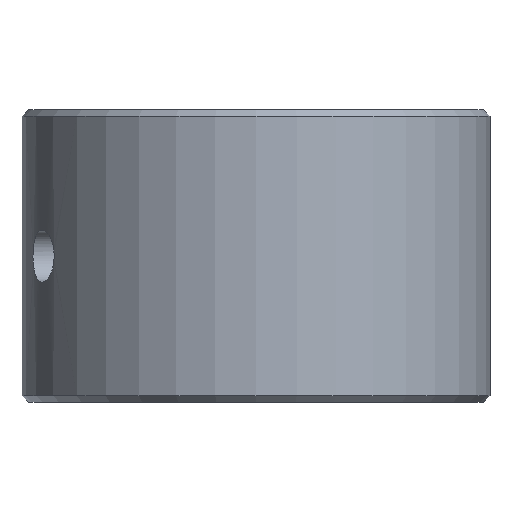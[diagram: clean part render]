
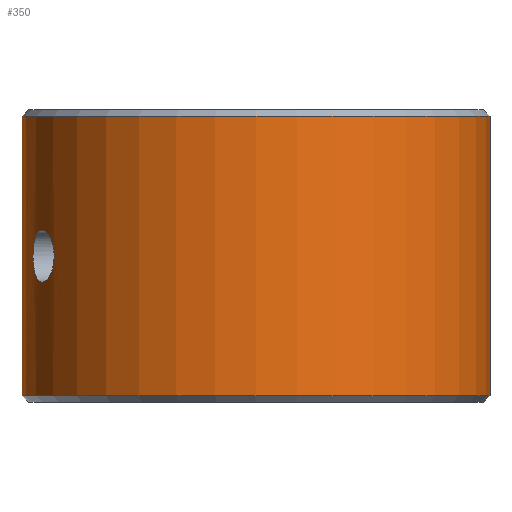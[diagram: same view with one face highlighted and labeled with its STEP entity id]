
A CAD part, front view. The second image highlights one B-rep face of the part: STEP entity #350.
In plain terms, the highlighted cylindrical face has radius 36 mm (diameter 72 mm), a full revolution.
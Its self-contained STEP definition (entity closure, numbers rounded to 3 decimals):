
#80=FACE_BOUND('',#150,.T.);
#81=FACE_BOUND('',#151,.T.);
#97=CIRCLE('',#395,36.);
#98=CIRCLE('',#396,36.);
#99=CIRCLE('',#398,36.);
#100=CIRCLE('',#399,36.);
#128=FACE_OUTER_BOUND('',#149,.T.);
#149=EDGE_LOOP('',(#295,#296,#297,#298,#299,#300));
#150=EDGE_LOOP('',(#301,#302));
#151=EDGE_LOOP('',(#303,#304));
#169=LINE('',#722,#181);
#181=VECTOR('',#469,36.);
#188=B_SPLINE_CURVE_WITH_KNOTS('',3,(#540,#541,#542,#543,#544,#545,#546,
#547,#548,#549,#550,#551,#552,#553,#554,#555,#556,#557,#558,#559,#560,#561,
#562,#563,#564,#565),.UNSPECIFIED.,.F.,.F.,(4,2,2,2,2,2,2,2,2,2,2,2,4),
(0.,0.151,0.302,0.452,0.603,
0.754,0.905,1.056,1.206,1.357,
1.508,1.659,1.81),.UNSPECIFIED.);
#189=B_SPLINE_CURVE_WITH_KNOTS('',3,(#566,#567,#568,#569,#570,#571,#572,
#573,#574,#575),.UNSPECIFIED.,.F.,.F.,(4,2,2,2,4),(1.81,1.961,
2.111,2.262,2.413),.UNSPECIFIED.);
#194=B_SPLINE_CURVE_WITH_KNOTS('',3,(#657,#658,#659,#660,#661,#662,#663,
#664,#665,#666),.UNSPECIFIED.,.F.,.F.,(4,2,2,2,4),(0.,0.151,
0.302,0.452,0.603),.UNSPECIFIED.);
#195=B_SPLINE_CURVE_WITH_KNOTS('',3,(#667,#668,#669,#670,#671,#672,#673,
#674,#675,#676,#677,#678,#679,#680,#681,#682,#683,#684,#685,#686,#687,#688,
#689,#690,#691,#692),.UNSPECIFIED.,.F.,.F.,(4,2,2,2,2,2,2,2,2,2,2,2,4),
(0.603,0.754,0.905,1.056,
1.206,1.357,1.508,1.659,1.81,
1.961,2.111,2.262,2.413),
 .UNSPECIFIED.);
#196=VERTEX_POINT('',#538);
#197=VERTEX_POINT('',#539);
#202=VERTEX_POINT('',#654);
#203=VERTEX_POINT('',#656);
#212=VERTEX_POINT('',#715);
#213=VERTEX_POINT('',#717);
#214=VERTEX_POINT('',#721);
#215=VERTEX_POINT('',#723);
#222=EDGE_CURVE('',#196,#197,#188,.T.);
#223=EDGE_CURVE('',#197,#196,#189,.T.);
#230=EDGE_CURVE('',#203,#202,#194,.T.);
#231=EDGE_CURVE('',#202,#203,#195,.T.);
#243=EDGE_CURVE('',#212,#213,#97,.T.);
#244=EDGE_CURVE('',#213,#212,#98,.T.);
#245=EDGE_CURVE('',#213,#214,#169,.T.);
#246=EDGE_CURVE('',#215,#214,#99,.T.);
#247=EDGE_CURVE('',#214,#215,#100,.T.);
#295=ORIENTED_EDGE('',*,*,#243,.F.);
#296=ORIENTED_EDGE('',*,*,#244,.F.);
#297=ORIENTED_EDGE('',*,*,#245,.T.);
#298=ORIENTED_EDGE('',*,*,#246,.F.);
#299=ORIENTED_EDGE('',*,*,#247,.F.);
#300=ORIENTED_EDGE('',*,*,#245,.F.);
#301=ORIENTED_EDGE('',*,*,#230,.T.);
#302=ORIENTED_EDGE('',*,*,#231,.T.);
#303=ORIENTED_EDGE('',*,*,#222,.T.);
#304=ORIENTED_EDGE('',*,*,#223,.T.);
#339=CYLINDRICAL_SURFACE('',#397,36.);
#350=ADVANCED_FACE('',(#128,#80,#81),#339,.T.);
#395=AXIS2_PLACEMENT_3D('',#718,#463,#464);
#396=AXIS2_PLACEMENT_3D('',#719,#465,#466);
#397=AXIS2_PLACEMENT_3D('',#720,#467,#468);
#398=AXIS2_PLACEMENT_3D('',#724,#470,#471);
#399=AXIS2_PLACEMENT_3D('',#725,#472,#473);
#463=DIRECTION('center_axis',(0.,0.,1.));
#464=DIRECTION('ref_axis',(-1.,0.,0.));
#465=DIRECTION('center_axis',(0.,0.,1.));
#466=DIRECTION('ref_axis',(-1.,0.,0.));
#467=DIRECTION('center_axis',(0.,0.,1.));
#468=DIRECTION('ref_axis',(1.,0.,0.));
#469=DIRECTION('',(0.,0.,-1.));
#470=DIRECTION('center_axis',(0.,0.,-1.));
#471=DIRECTION('ref_axis',(-1.,0.,0.));
#472=DIRECTION('center_axis',(0.,0.,-1.));
#473=DIRECTION('ref_axis',(-1.,0.,0.));
#538=CARTESIAN_POINT('',(-34.311,-10.898,0.));
#539=CARTESIAN_POINT('',(-32.888,-14.643,-4.));
#540=CARTESIAN_POINT('Ctrl Pts',(-34.311,-10.898,0.));
#541=CARTESIAN_POINT('Ctrl Pts',(-34.311,-10.898,0.503));
#542=CARTESIAN_POINT('Ctrl Pts',(-34.281,-10.994,1.039));
#543=CARTESIAN_POINT('Ctrl Pts',(-34.153,-11.384,2.024));
#544=CARTESIAN_POINT('Ctrl Pts',(-34.055,-11.678,2.474));
#545=CARTESIAN_POINT('Ctrl Pts',(-33.818,-12.349,3.183));
#546=CARTESIAN_POINT('Ctrl Pts',(-33.662,-12.772,3.491));
#547=CARTESIAN_POINT('Ctrl Pts',(-33.299,-13.689,3.899));
#548=CARTESIAN_POINT('Ctrl Pts',(-33.092,-14.183,4.));
#549=CARTESIAN_POINT('Ctrl Pts',(-32.683,-15.102,4.));
#550=CARTESIAN_POINT('Ctrl Pts',(-32.455,-15.587,3.899));
#551=CARTESIAN_POINT('Ctrl Pts',(-32.015,-16.47,3.491));
#552=CARTESIAN_POINT('Ctrl Pts',(-31.805,-16.868,3.183));
#553=CARTESIAN_POINT('Ctrl Pts',(-31.466,-17.494,2.474));
#554=CARTESIAN_POINT('Ctrl Pts',(-31.313,-17.763,2.024));
#555=CARTESIAN_POINT('Ctrl Pts',(-31.109,-18.119,1.039));
#556=CARTESIAN_POINT('Ctrl Pts',(-31.057,-18.206,0.503));
#557=CARTESIAN_POINT('Ctrl Pts',(-31.057,-18.206,-0.503));
#558=CARTESIAN_POINT('Ctrl Pts',(-31.109,-18.119,-1.039));
#559=CARTESIAN_POINT('Ctrl Pts',(-31.313,-17.763,-2.024));
#560=CARTESIAN_POINT('Ctrl Pts',(-31.466,-17.494,-2.474));
#561=CARTESIAN_POINT('Ctrl Pts',(-31.805,-16.868,-3.183));
#562=CARTESIAN_POINT('Ctrl Pts',(-32.015,-16.47,-3.491));
#563=CARTESIAN_POINT('Ctrl Pts',(-32.455,-15.587,-3.899));
#564=CARTESIAN_POINT('Ctrl Pts',(-32.683,-15.102,-4.));
#565=CARTESIAN_POINT('Ctrl Pts',(-32.888,-14.643,-4.));
#566=CARTESIAN_POINT('Ctrl Pts',(-32.888,-14.643,-4.));
#567=CARTESIAN_POINT('Ctrl Pts',(-33.092,-14.183,-4.));
#568=CARTESIAN_POINT('Ctrl Pts',(-33.299,-13.689,-3.899));
#569=CARTESIAN_POINT('Ctrl Pts',(-33.662,-12.772,-3.491));
#570=CARTESIAN_POINT('Ctrl Pts',(-33.818,-12.349,-3.183));
#571=CARTESIAN_POINT('Ctrl Pts',(-34.055,-11.678,-2.474));
#572=CARTESIAN_POINT('Ctrl Pts',(-34.153,-11.384,-2.024));
#573=CARTESIAN_POINT('Ctrl Pts',(-34.281,-10.994,-1.039));
#574=CARTESIAN_POINT('Ctrl Pts',(-34.311,-10.898,-0.503));
#575=CARTESIAN_POINT('Ctrl Pts',(-34.311,-10.898,0.));
#654=CARTESIAN_POINT('',(32.888,14.643,-4.));
#656=CARTESIAN_POINT('',(31.057,18.206,0.));
#657=CARTESIAN_POINT('Ctrl Pts',(31.057,18.206,0.));
#658=CARTESIAN_POINT('Ctrl Pts',(31.057,18.206,-0.503));
#659=CARTESIAN_POINT('Ctrl Pts',(31.109,18.119,-1.039));
#660=CARTESIAN_POINT('Ctrl Pts',(31.313,17.763,-2.024));
#661=CARTESIAN_POINT('Ctrl Pts',(31.466,17.494,-2.474));
#662=CARTESIAN_POINT('Ctrl Pts',(31.805,16.868,-3.183));
#663=CARTESIAN_POINT('Ctrl Pts',(32.015,16.47,-3.491));
#664=CARTESIAN_POINT('Ctrl Pts',(32.455,15.587,-3.899));
#665=CARTESIAN_POINT('Ctrl Pts',(32.683,15.102,-4.));
#666=CARTESIAN_POINT('Ctrl Pts',(32.888,14.643,-4.));
#667=CARTESIAN_POINT('Ctrl Pts',(32.888,14.643,-4.));
#668=CARTESIAN_POINT('Ctrl Pts',(33.092,14.183,-4.));
#669=CARTESIAN_POINT('Ctrl Pts',(33.299,13.689,-3.899));
#670=CARTESIAN_POINT('Ctrl Pts',(33.662,12.772,-3.491));
#671=CARTESIAN_POINT('Ctrl Pts',(33.818,12.349,-3.183));
#672=CARTESIAN_POINT('Ctrl Pts',(34.055,11.678,-2.474));
#673=CARTESIAN_POINT('Ctrl Pts',(34.153,11.384,-2.024));
#674=CARTESIAN_POINT('Ctrl Pts',(34.281,10.994,-1.039));
#675=CARTESIAN_POINT('Ctrl Pts',(34.311,10.898,-0.503));
#676=CARTESIAN_POINT('Ctrl Pts',(34.311,10.898,0.503));
#677=CARTESIAN_POINT('Ctrl Pts',(34.281,10.994,1.039));
#678=CARTESIAN_POINT('Ctrl Pts',(34.153,11.384,2.024));
#679=CARTESIAN_POINT('Ctrl Pts',(34.055,11.678,2.474));
#680=CARTESIAN_POINT('Ctrl Pts',(33.818,12.349,3.183));
#681=CARTESIAN_POINT('Ctrl Pts',(33.662,12.772,3.491));
#682=CARTESIAN_POINT('Ctrl Pts',(33.299,13.689,3.899));
#683=CARTESIAN_POINT('Ctrl Pts',(33.092,14.183,4.));
#684=CARTESIAN_POINT('Ctrl Pts',(32.683,15.102,4.));
#685=CARTESIAN_POINT('Ctrl Pts',(32.455,15.587,3.899));
#686=CARTESIAN_POINT('Ctrl Pts',(32.015,16.47,3.491));
#687=CARTESIAN_POINT('Ctrl Pts',(31.805,16.868,3.183));
#688=CARTESIAN_POINT('Ctrl Pts',(31.466,17.494,2.474));
#689=CARTESIAN_POINT('Ctrl Pts',(31.313,17.763,2.024));
#690=CARTESIAN_POINT('Ctrl Pts',(31.109,18.119,1.039));
#691=CARTESIAN_POINT('Ctrl Pts',(31.057,18.206,0.503));
#692=CARTESIAN_POINT('Ctrl Pts',(31.057,18.206,0.));
#715=CARTESIAN_POINT('',(36.,0.,21.5));
#717=CARTESIAN_POINT('',(-36.,0.,21.5));
#718=CARTESIAN_POINT('Origin',(0.,0.,21.5));
#719=CARTESIAN_POINT('Origin',(0.,0.,21.5));
#720=CARTESIAN_POINT('Origin',(0.,0.,0.));
#721=CARTESIAN_POINT('',(-36.,0.,-21.5));
#722=CARTESIAN_POINT('',(-36.,0.,0.));
#723=CARTESIAN_POINT('',(36.,0.,-21.5));
#724=CARTESIAN_POINT('Origin',(0.,0.,-21.5));
#725=CARTESIAN_POINT('Origin',(0.,0.,-21.5));
